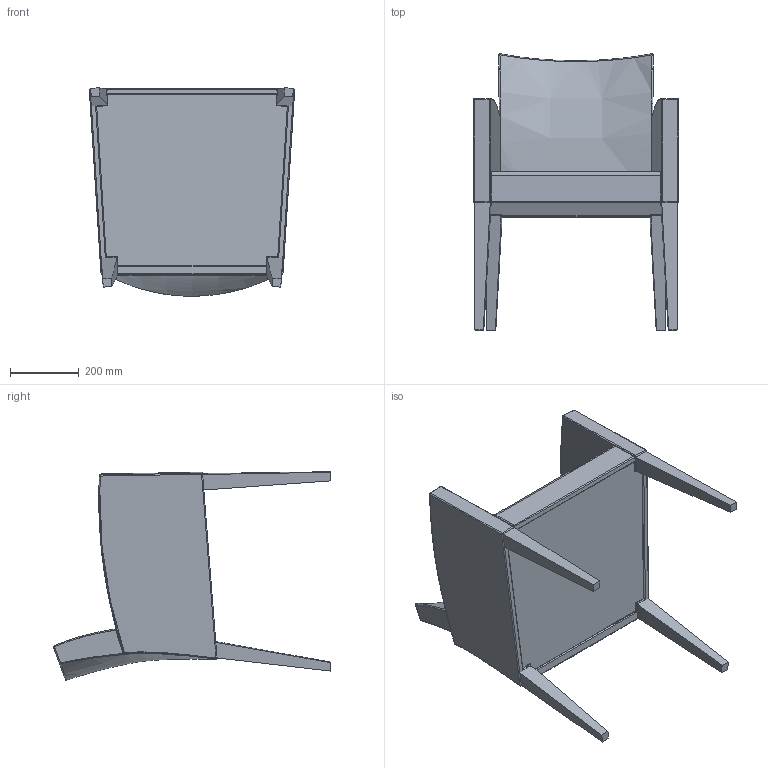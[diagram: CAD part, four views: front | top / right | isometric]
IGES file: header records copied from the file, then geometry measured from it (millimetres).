
Start section: SolidWorks IGES file using analytic representation for surfaces
Global section: file name: C:\Users\Adao\Documents\Trab Adao\Desenho técnico PRODUÇÃO\J M S\CASSIS\Linha CASSIS (sat)\CADEIRÃO M-28.IGS; native system: SolidWorks 2012; preprocessor: SolidWorks 2012; author: Adao; date: 121027.102052; units: millimetre
Bounding box: 597.23 x 805.5 x 607.07 mm (x, y, z)
Surface area: 2463466.7 mm2 (no closed solid volume)
Topology: 0 solids, 0 shells, 220 faces, 1987 edges, 1968 vertices
Faces by surface type: bspline 142, revolution 78
